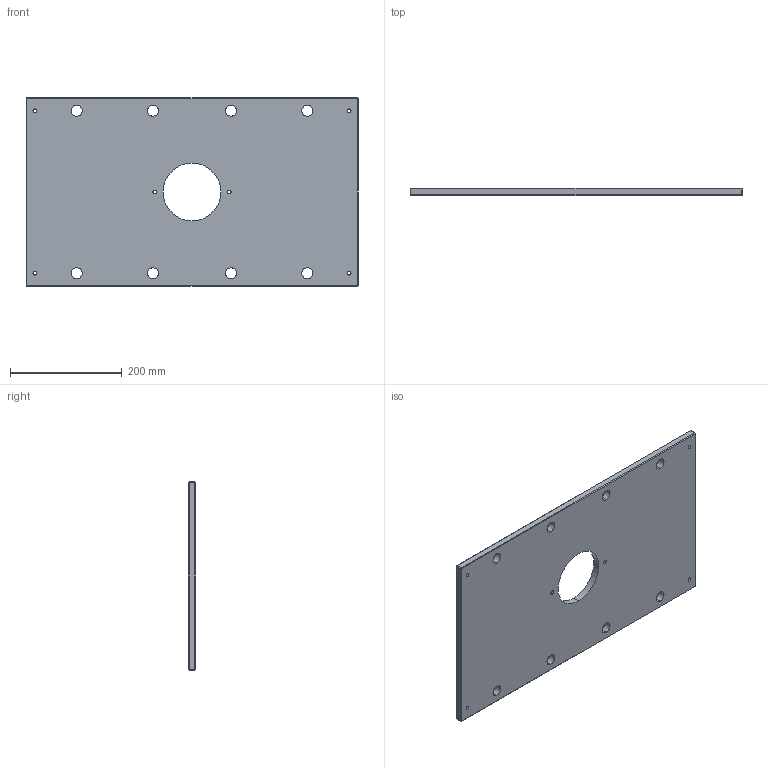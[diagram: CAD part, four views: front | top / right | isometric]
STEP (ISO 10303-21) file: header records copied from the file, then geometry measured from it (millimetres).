
FILE_DESCRIPTION (( 'STEP AP214' ), '1' );
FILE_NAME ('ME-0619-CH-1323.STEP', '2020-02-12T13:45:59', ( '' ), ( '' ), 'SwSTEP 2.0', 'SolidWorks 2018', '' );
FILE_SCHEMA (( 'AUTOMOTIVE_DESIGN' ));
Length unit declared in the file: inch
Products named in the file (1): ME-0619-CH-1323
Bounding box: 593.73 x 12.7 x 336.55 mm (x, y, z)
Volume: 2393011.6 mm3; surface area: 410276.7 mm2
Topology: 1 solids, 1 shells, 68 faces, 162 edges, 96 vertices
Faces by surface type: cylinder 30, plane 26, cone 12
Entity records: 2050 total; most frequent: DIRECTION 372, CARTESIAN_POINT 327, ORIENTED_EDGE 324, EDGE_CURVE 162, AXIS2_PLACEMENT_3D 141, EDGE_LOOP 98, VERTEX_POINT 96, VECTOR 90
